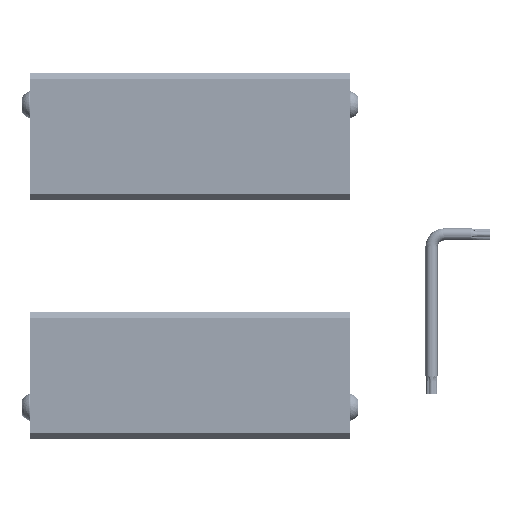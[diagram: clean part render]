
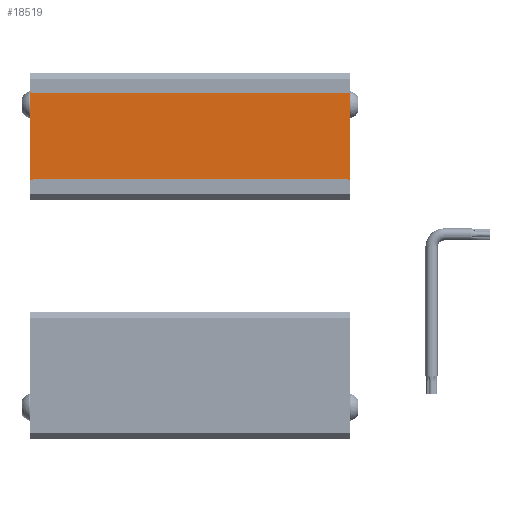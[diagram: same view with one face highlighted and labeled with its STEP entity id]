
A CAD part, front view. The second image highlights one B-rep face of the part: STEP entity #18519.
In plain terms, the highlighted planar face has unit normal (0, -1, 0).
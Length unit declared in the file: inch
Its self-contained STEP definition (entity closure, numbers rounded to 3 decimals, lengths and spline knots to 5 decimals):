
#314 = VECTOR ( 'NONE', #16249, 39.37008 ) ;
#467 = CARTESIAN_POINT ( 'NONE',  ( 1.77446, 0.31494, -2.475 ) ) ;
#697 = DIRECTION ( 'NONE',  ( 0., 0., 1. ) ) ;
#830 = CARTESIAN_POINT ( 'NONE',  ( 0.21393, 0.31494, 2.425 ) ) ;
#937 = DIRECTION ( 'NONE',  ( 0., 1., 0. ) ) ;
#969 = LINE ( 'NONE', #11768, #314 ) ;
#992 = DIRECTION ( 'NONE',  ( 0.259, 0., -0.966 ) ) ;
#1199 = VERTEX_POINT ( 'NONE', #467 ) ;
#1386 = DIRECTION ( 'NONE',  ( 0.259, 0., -0.966 ) ) ;
#2001 = CARTESIAN_POINT ( 'NONE',  ( 0.21393, 0.31494, -2.425 ) ) ;
#2050 = CARTESIAN_POINT ( 'NONE',  ( 0.21393, 0.31494, -2.475 ) ) ;
#2085 = VERTEX_POINT ( 'NONE', #17761 ) ;
#2258 = CARTESIAN_POINT ( 'NONE',  ( 1.81479, 0.31494, 2.62549 ) ) ;
#2747 = DIRECTION ( 'NONE',  ( -1., 0., 0. ) ) ;
#3567 = EDGE_CURVE ( 'NONE', #4710, #13040, #969, .T. ) ;
#3856 = CARTESIAN_POINT ( 'NONE',  ( 0.28096, 0.31494, -2.17485 ) ) ;
#4710 = VERTEX_POINT ( 'NONE', #9077 ) ;
#5150 = CARTESIAN_POINT ( 'NONE',  ( 0.21393, 0.31494, -2.475 ) ) ;
#5256 = CARTESIAN_POINT ( 'NONE',  ( 0.20054, 0.31494, 2.475 ) ) ;
#5660 = ORIENTED_EDGE ( 'NONE', *, *, #10375, .F. ) ;
#5790 = EDGE_CURVE ( 'NONE', #18834, #12518, #11138, .T. ) ;
#5875 = VERTEX_POINT ( 'NONE', #830 ) ;
#5908 = VECTOR ( 'NONE', #15414, 39.37008 ) ;
#6731 = ORIENTED_EDGE ( 'NONE', *, *, #7032, .F. ) ;
#7032 = EDGE_CURVE ( 'NONE', #1199, #2085, #8218, .T. ) ;
#7189 = DIRECTION ( 'NONE',  ( -0.259, 0., -0.966 ) ) ;
#7288 = EDGE_CURVE ( 'NONE', #16784, #5875, #19006, .T. ) ;
#8218 = LINE ( 'NONE', #2050, #11095 ) ;
#8364 = CARTESIAN_POINT ( 'NONE',  ( 1.76107, 0.31494, -2.425 ) ) ;
#8547 = VECTOR ( 'NONE', #7189, 39.37008 ) ;
#8869 = LINE ( 'NONE', #11792, #10509 ) ;
#8963 = ORIENTED_EDGE ( 'NONE', *, *, #11784, .F. ) ;
#9077 = CARTESIAN_POINT ( 'NONE',  ( 1.77446, 0.31494, 2.475 ) ) ;
#9938 = LINE ( 'NONE', #2258, #16307 ) ;
#9973 = EDGE_LOOP ( 'NONE', ( #11778, #18742, #12288, #15318, #6731, #8963, #12081, #5660 ) ) ;
#10375 = EDGE_CURVE ( 'NONE', #4710, #12518, #9938, .T. ) ;
#10509 = VECTOR ( 'NONE', #1386, 39.37008 ) ;
#10789 = EDGE_CURVE ( 'NONE', #16784, #2085, #19529, .T. ) ;
#11058 = DIRECTION ( 'NONE',  ( -0.259, 0., -0.966 ) ) ;
#11095 = VECTOR ( 'NONE', #14494, 39.37008 ) ;
#11138 = LINE ( 'NONE', #18526, #5908 ) ;
#11639 = FACE_OUTER_BOUND ( 'NONE', #9973, .T. ) ;
#11755 = EDGE_CURVE ( 'NONE', #13040, #5875, #8869, .T. ) ;
#11768 = CARTESIAN_POINT ( 'NONE',  ( 0.21393, 0.31494, 2.475 ) ) ;
#11778 = ORIENTED_EDGE ( 'NONE', *, *, #3567, .T. ) ;
#11784 = EDGE_CURVE ( 'NONE', #18834, #1199, #11991, .T. ) ;
#11792 = CARTESIAN_POINT ( 'NONE',  ( 0.16021, 0.31494, 2.62549 ) ) ;
#11991 = LINE ( 'NONE', #15151, #16988 ) ;
#12081 = ORIENTED_EDGE ( 'NONE', *, *, #5790, .T. ) ;
#12288 = ORIENTED_EDGE ( 'NONE', *, *, #7288, .F. ) ;
#12348 = CARTESIAN_POINT ( 'NONE',  ( 1.76107, 0.31494, 2.425 ) ) ;
#12518 = VERTEX_POINT ( 'NONE', #12348 ) ;
#13040 = VERTEX_POINT ( 'NONE', #5256 ) ;
#13044 = VECTOR ( 'NONE', #697, 39.37008 ) ;
#14494 = DIRECTION ( 'NONE',  ( -1., 0., 0. ) ) ;
#15151 = CARTESIAN_POINT ( 'NONE',  ( 1.69404, 0.31494, -2.17485 ) ) ;
#15318 = ORIENTED_EDGE ( 'NONE', *, *, #10789, .T. ) ;
#15414 = DIRECTION ( 'NONE',  ( 0., 0., 1. ) ) ;
#16249 = DIRECTION ( 'NONE',  ( -1., 0., 0. ) ) ;
#16307 = VECTOR ( 'NONE', #11058, 39.37008 ) ;
#16784 = VERTEX_POINT ( 'NONE', #2001 ) ;
#16988 = VECTOR ( 'NONE', #992, 39.37008 ) ;
#17502 = AXIS2_PLACEMENT_3D ( 'NONE', #17824, #937, #2747 ) ;
#17726 = PLANE ( 'NONE',  #17502 ) ;
#17761 = CARTESIAN_POINT ( 'NONE',  ( 0.20054, 0.31494, -2.475 ) ) ;
#17824 = CARTESIAN_POINT ( 'NONE',  ( 0.21393, 0.31494, -2.475 ) ) ;
#18519 = ADVANCED_FACE ( 'NONE', ( #11639 ), #17726, .F. ) ;
#18526 = CARTESIAN_POINT ( 'NONE',  ( 1.76107, 0.31494, -2.475 ) ) ;
#18742 = ORIENTED_EDGE ( 'NONE', *, *, #11755, .T. ) ;
#18834 = VERTEX_POINT ( 'NONE', #8364 ) ;
#19006 = LINE ( 'NONE', #5150, #13044 ) ;
#19529 = LINE ( 'NONE', #3856, #8547 ) ;
